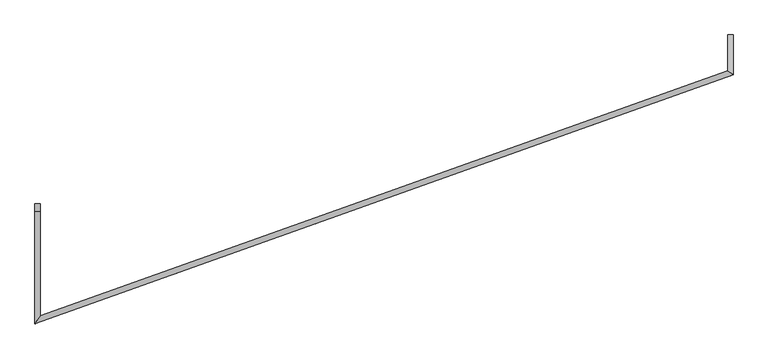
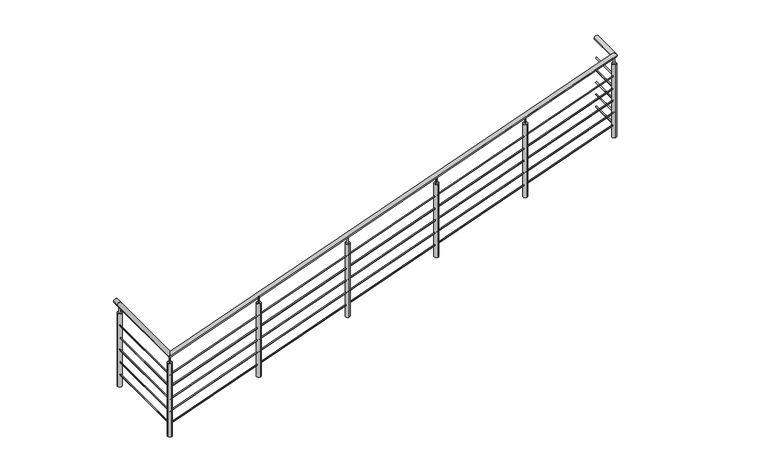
"""IFC4 building model written with IfcOpenShell, lengths in millimetres: railing geometry, Barandal general."""

import ifcopenshell
import ifcopenshell.guid

model = None  # the IFC model being written
_history = None  # IfcOwnerHistory: only IFC2X3 demands one
_inside = {}  # id of a spatial element -> (the spatial element, [elements in it])
_under = {}  # id of a project, library or spatial element -> (it, [spatial elements below it])
_declared = {}  # id of a project -> (the project, [libraries it declares])
_typed = {}  # id of a type object -> (the type object, [elements of that type])
_made_of = {}  # id of a material, layer set ... -> (it, [elements and type objects made of it])


def new_model(schema):
    """Start an empty IFC model of exactly this schema.

    Asked for "IFC4X3", IfcOpenShell would pick the latest addendum, in which some entities
    have other attributes; the version numbers below select the first issue.
    IFC2X3 requires an IfcOwnerHistory on every rooted entity: one is made here for all.
    """
    global model, _history
    if schema == "IFC4X3":
        model = ifcopenshell.file(schema_version=(4, 3, 0, 0))
    else:
        model = ifcopenshell.file(schema=schema)
    _inside.clear()
    _under.clear()
    _declared.clear()
    _typed.clear()
    _made_of.clear()
    _history = None
    if model.schema == "IFC2X3":
        org = make("IfcOrganization", Name="unknown")
        user = make(
            "IfcPersonAndOrganization",
            ThePerson=make("IfcPerson", FamilyName="unknown"),
            TheOrganization=org,
        )
        app = make(
            "IfcApplication",
            ApplicationDeveloper=org,
            Version="unknown",
            ApplicationFullName="unknown",
            ApplicationIdentifier="unknown",
        )
        _history = make(
            "IfcOwnerHistory",
            OwningUser=user,
            OwningApplication=app,
            ChangeAction="ADDED",
            CreationDate=0,
        )
    return model


def make(cls, **values):
    """One entity of the class cls with the attributes given. An attribute that is None is left unset."""
    return model.create_entity(
        cls, **{name: value for name, value in values.items() if value is not None}
    )


def rooted(cls, **values):
    """An entity with a GlobalId (a new one), such as an element, a storey or a relation."""
    return make(cls, GlobalId=ifcopenshell.guid.new(), OwnerHistory=_history, **values)


def si_unit(unit_type, name, prefix=None):
    """IfcSIUnit, for example si_unit("LENGTHUNIT", "METRE", prefix="MILLI")."""
    return make("IfcSIUnit", UnitType=unit_type, Prefix=prefix, Name=name)


def assignment(units):
    """IfcUnitAssignment: the units of a project."""
    return None if units is None else make("IfcUnitAssignment", Units=units)


def point(xyz):
    """IfcCartesianPoint."""
    return None if xyz is None else make("IfcCartesianPoint", Coordinates=xyz)


def direction(xyz):
    """IfcDirection."""
    return None if xyz is None else make("IfcDirection", DirectionRatios=xyz)


def frame(location, z_axis=None, x_axis=None):
    """IfcAxis2Placement3D, a coordinate frame: its origin and axes. An axis left out is left unset."""
    return make(
        "IfcAxis2Placement3D",
        Location=point(location),
        Axis=direction(z_axis),
        RefDirection=direction(x_axis),
    )


def frame_2d(location, x_axis=None):
    """IfcAxis2Placement2D, a coordinate frame in the plane: its origin and x axis."""
    return make(
        "IfcAxis2Placement2D", Location=point(location), RefDirection=direction(x_axis)
    )


def origin():
    """The frame at (0, 0, 0) with its axes left unset."""
    return frame((0.0, 0.0, 0.0))


def place(relative_to, where):
    """IfcLocalPlacement: puts the frame where relative to a parent placement (None: the world)."""
    return make(
        "IfcLocalPlacement", PlacementRelTo=relative_to, RelativePlacement=where
    )


def context(
    kind, dimensions, precision=None, world=None, true_north=None, identifier=None
):
    """IfcGeometricRepresentationContext, for example the 3D "Model" context."""
    return make(
        "IfcGeometricRepresentationContext",
        ContextIdentifier=identifier,
        ContextType=kind,
        CoordinateSpaceDimension=dimensions,
        Precision=precision,
        WorldCoordinateSystem=world,
        TrueNorth=true_north,
    )


def project(units=None, contexts=None):
    """IfcProject with its units and contexts."""
    return rooted(
        "IfcProject",
        Name="project",
        RepresentationContexts=contexts,
        UnitsInContext=assignment(units),
    )


def spatial(cls, under=None, at=None, **own):
    """A site, building, storey or space (cls), placed at a placement, below another one or the project."""
    s = rooted(cls, ObjectPlacement=at, **own)
    if under is not None:
        _under.setdefault(under.id(), (under, []))[1].append(s)
    return s


def circle_curve(where, radius):
    """IfcCircle in the frame where."""
    return make("IfcCircle", Position=where, Radius=radius)


def ellipse_curve(where, semi_axis1, semi_axis2):
    """IfcEllipse in the frame where."""
    return make(
        "IfcEllipse", Position=where, SemiAxis1=semi_axis1, SemiAxis2=semi_axis2
    )


def trimmed(basis, trim1, trim2, sense, master):
    """IfcTrimmedCurve: the piece of a basis curve between two trims."""
    return make(
        "IfcTrimmedCurve",
        BasisCurve=basis,
        Trim1=trim1,
        Trim2=trim2,
        SenseAgreement=sense,
        MasterRepresentation=master,
    )


def segment(curve, same_sense, transition):
    """IfcCompositeCurveSegment."""
    return make(
        "IfcCompositeCurveSegment",
        Transition=transition,
        SameSense=same_sense,
        ParentCurve=curve,
    )


def composite_curve(segments, self_intersect=None):
    """IfcCompositeCurve: segments joined end to end."""
    return make("IfcCompositeCurve", Segments=segments, SelfIntersect=self_intersect)


def outline(outer, holes=None, kind="AREA"):
    """IfcArbitraryClosedProfileDef: a profile drawn as a closed curve; with holes, ...WithVoids."""
    if holes is None:
        return make("IfcArbitraryClosedProfileDef", ProfileType=kind, OuterCurve=outer)
    return make(
        "IfcArbitraryProfileDefWithVoids",
        ProfileType=kind,
        OuterCurve=outer,
        InnerCurves=holes,
    )


def extrude(swept, where, along, depth):
    """IfcExtrudedAreaSolid: the profile swept, set in the frame where, extruded along a direction by depth."""
    return make(
        "IfcExtrudedAreaSolid",
        SweptArea=swept,
        Position=where,
        ExtrudedDirection=direction(along),
        Depth=depth,
    )


def shape(context_of_items, identifier, shape_type, items):
    """IfcShapeRepresentation: the items that make up one representation, for example the "Body"."""
    return make(
        "IfcShapeRepresentation",
        ContextOfItems=context_of_items,
        RepresentationIdentifier=identifier,
        RepresentationType=shape_type,
        Items=items,
    )


def source(mapping_origin, context_of_items, identifier, shape_type, items):
    """IfcRepresentationMap: a shape defined once, which mapped items show again and again."""
    return make(
        "IfcRepresentationMap",
        MappingOrigin=mapping_origin,
        MappedRepresentation=shape(context_of_items, identifier, shape_type, items),
    )


def transform(
    local_origin,
    x_axis=None,
    y_axis=None,
    z_axis=None,
    scale=None,
    scale2=None,
    scale3=None,
    uniform=True,
):
    """IfcCartesianTransformationOperator3D, or its non-uniform kind. x_axis, y_axis, z_axis: its Axis1, 2, 3."""
    if uniform:
        return make(
            "IfcCartesianTransformationOperator3D",
            Axis1=direction(x_axis),
            Axis2=direction(y_axis),
            LocalOrigin=point(local_origin),
            Scale=scale,
            Axis3=direction(z_axis),
        )
    return make(
        "IfcCartesianTransformationOperator3DnonUniform",
        Axis1=direction(x_axis),
        Axis2=direction(y_axis),
        LocalOrigin=point(local_origin),
        Scale=scale,
        Axis3=direction(z_axis),
        Scale2=scale2,
        Scale3=scale3,
    )


def mapped(mapping_source, mapping_target):
    """IfcMappedItem: shows the shape of a source again, moved by a transform."""
    return make(
        "IfcMappedItem", MappingSource=mapping_source, MappingTarget=mapping_target
    )


def made_of(thing, what):
    """Note that an element or type object is made of a material, layer set ...; save() writes the relation."""
    if what is not None:
        _made_of.setdefault(what.id(), (what, []))[1].append(thing)
    return thing


def element(
    cls,
    number,
    at=None,
    inside=None,
    cuts=None,
    type_object=None,
    material=None,
    context=None,
    identifier="Body",
    shape_type=None,
    held_by="IfcProductDefinitionShape",
    body=None,
    shapes=None,
    **own,
):
    """One element of the class cls, such as IfcWall. Its Tag is "e" and its number.

    at: its placement. inside: the storey or other place that contains it. cuts: it is an
    opening in that element (IfcRelVoidsElement). A single representation is given by context,
    identifier, shape_type and body (its items); several are given by shapes. held_by: the class
    of the entity that holds the representations. save() writes the other relations.
    """
    e = rooted(cls, Tag="e%d" % number, ObjectPlacement=at, **own)
    if body is not None:
        shapes = [shape(context, identifier, shape_type, body)]
    if shapes is not None:
        e.Representation = make(held_by, Representations=shapes)
    if inside is not None:
        _inside.setdefault(inside.id(), (inside, []))[1].append(e)
    if cuts is not None:
        rooted(
            "IfcRelVoidsElement", RelatingBuildingElement=cuts, RelatedOpeningElement=e
        )
    if type_object is not None:
        _typed.setdefault(type_object.id(), (type_object, []))[1].append(e)
    return made_of(e, material)


def aggregate(whole, parts):
    """IfcRelAggregates: a whole, such as a stair, and the parts it consists of."""
    return rooted("IfcRelAggregates", RelatingObject=whole, RelatedObjects=parts)


def save(model, path):
    """Write the relations noted so far, then the file.

    IfcRelAggregates (storeys below a building ...), IfcRelContainedInSpatialStructure (elements
    in a storey), IfcRelDefinesByType, IfcRelAssociatesMaterial and IfcRelDeclares: one each for
    every whole, place, type object, material and project.
    """
    for whole, parts in _under.values():
        aggregate(whole, parts)
    for where, things in _inside.values():
        rooted(
            "IfcRelContainedInSpatialStructure",
            RelatedElements=things,
            RelatingStructure=where,
        )
    for kind, things in _typed.values():
        rooted("IfcRelDefinesByType", RelatedObjects=things, RelatingType=kind)
    for what, things in _made_of.values():
        rooted("IfcRelAssociatesMaterial", RelatedObjects=things, RelatingMaterial=what)
    for by, libraries in _declared.values():
        rooted("IfcRelDeclares", RelatingContext=by, RelatedDefinitions=libraries)
    model.write(path)


def plane_surface(at):
    """IfcPlane: the flat surface through the origin of the frame at, square to its z axis."""
    return make("IfcPlane", Position=at)


def cylinder_surface(at, radius):
    """IfcCylindricalSurface: all points at the distance radius from the z axis of the frame at."""
    return make("IfcCylindricalSurface", Position=at, Radius=radius)


def advanced_brep(points, edges, surfaces, faces):
    """IfcAdvancedBrep: a solid bounded by faces that lie on surfaces and meet in shared edges.

    An edge is (start, end): straight between two places in points (the first is 0);
    or (start, end, curve); or (start, end, curve, False) where it runs against its curve.
    A face is (place in surfaces, loops), or (place, loops, False) where it looks against
    its surface's normal. A loop lists edges by number (the first is 1), with a minus sign
    where the edge is run from its end to its start. The first loop is the outer one.
    """
    corners = [point(p) for p in points]
    vertices = [make("IfcVertexPoint", VertexGeometry=c) for c in corners]
    made = []
    for start, end, *more in edges:
        made.append(
            make(
                "IfcEdgeCurve",
                EdgeStart=vertices[start],
                EdgeEnd=vertices[end],
                EdgeGeometry=more[0] if more else make("IfcPolyline", Points=[corners[start], corners[end]]),
                SameSense=more[1] if len(more) > 1 else True,
            )
        )
    hull = []
    for where, loops, *sense in faces:
        bounds = []
        for j, loop in enumerate(loops):
            ring = [make("IfcOrientedEdge", EdgeElement=made[abs(k) - 1], Orientation=k > 0) for k in loop]
            bounds.append(
                make(
                    "IfcFaceOuterBound" if j == 0 else "IfcFaceBound",
                    Bound=make("IfcEdgeLoop", EdgeList=ring),
                    Orientation=True,
                )
            )
        hull.append(make("IfcAdvancedFace", Bounds=bounds, FaceSurface=surfaces[where], SameSense=sense[0] if sense else True))
    return make("IfcAdvancedBrep", Outer=make("IfcClosedShell", CfsFaces=hull))


def railing_f92ae113(model_context):
    return source(origin(), model_context, "Body", "SolidModel", [
        advanced_brep(
        [(42883.0275078, 24829.0112971, 10000.0), (42832.2275078, 24829.0112971, 10000.0), (42883.0275078, 23850.0761645, 10000.0), (42832.2275078, 23778.0442839, 10000.0), (49344.1059119, 26152.5044571, 10000.0), (49394.9059119, 26116.6780983, 10000.0), (49344.1059119, 26491.6980314, 10000.0), (49394.9059119, 26491.6980314, 10000.0)],
        [
            (0, 1, circle_curve(frame((42857.6275078, 24829.0112971, 10000.0), z_axis=(0.0, 1.0, 0.0), x_axis=(-1.0, 0.0, 0.0)), 25.4)),
            (1, 0, circle_curve(frame((42857.6275078, 24829.0112971, 10000.0), z_axis=(0.0, 1.0, 0.0), x_axis=(-1.0, 0.0, 0.0)), 25.4)),
            (0, 2),
            (2, 3, ellipse_curve(frame((42857.6275078, 23814.0602242, 10000.0), z_axis=(-0.8172138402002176, 0.5763345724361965, 0.0), x_axis=(0.5763345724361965, 0.8172138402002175, 0.0)), 44.071623, 25.4)),
            (3, 1),
            (3, 2, ellipse_curve(frame((42857.6275078, 23814.0602242, 10000.0), z_axis=(-0.8172138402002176, 0.5763345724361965, 0.0), x_axis=(0.5763345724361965, 0.8172138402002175, 0.0)), 44.071623, 25.4)),
            (2, 4),
            (4, 5, ellipse_curve(frame((49369.5059119, 26134.5912777, 10000.0), z_axis=(-0.5763345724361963, -0.8172138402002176, 0.0), x_axis=(-0.8172138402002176, 0.5763345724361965, 0.0)), 31.0812161, 25.4)),
            (5, 3),
            (5, 4, ellipse_curve(frame((49369.5059119, 26134.5912777, 10000.0), z_axis=(-0.5763345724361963, -0.8172138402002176, 0.0), x_axis=(-0.8172138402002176, 0.5763345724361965, 0.0)), 31.0812161, 25.4)),
            (6, 7, circle_curve(frame((49369.5059119, 26491.6980314, 10000.0), z_axis=(0.0, 1.0, 0.0), x_axis=(1.0, 0.0, 0.0)), 25.4)),
            (7, 6, circle_curve(frame((49369.5059119, 26491.6980314, 10000.0), z_axis=(0.0, 1.0, 0.0), x_axis=(1.0, 0.0, 0.0)), 25.4)),
            (4, 6),
            (7, 5),
        ],
        [
            plane_surface(frame((42857.6275078, 24829.0112971, 10000.0), z_axis=(0.0, 1.0, 0.0), x_axis=(0.0, 0.0, -1.0))),
            cylinder_surface(frame((42857.6275078, 24829.0112971, 10000.0), z_axis=(0.0, 1.0, 0.0), x_axis=(-1.0, 0.0, 0.0)), 25.4),
            cylinder_surface(frame((42857.6275078, 23814.0602242, 10000.0), z_axis=(-0.941977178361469, -0.3356769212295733, 0.0), x_axis=(0.3356769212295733, -0.941977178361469, 0.0)), 25.4),
            plane_surface(frame((49369.5059119, 26491.6980314, 10000.0), z_axis=(0.0, 1.0, 0.0), x_axis=(0.0, 0.0, 1.0))),
            cylinder_surface(frame((49369.5059119, 26134.5912777, 10000.0), z_axis=(0.0, -1.0, 0.0), x_axis=(1.0, 0.0, 0.0)), 25.4),
        ],
        [
            (0, [[1, 2]]),
            (1, [[-1, 3, 4, 5]]),
            (1, [[-2, -5, 6, -3]]),
            (2, [[-4, 7, 8, 9]]),
            (2, [[-6, -9, 10, -7]]),
            (3, [[11, 12]]),
            (4, [[-8, 13, -12, 14]]),
            (4, [[-10, -14, -11, -13]]),
        ],
    ),
        advanced_brep(
        [(42863.9775078, 24829.0112971, 9750.0), (42851.2775078, 24829.0112971, 9750.0), (42863.9775078, 23823.0642093, 9750.0), (42851.2775078, 23805.0562391, 9750.0), (49363.1559119, 26139.0695726, 9750.0), (49375.8559119, 26130.1129829, 9750.0), (49363.1559119, 26491.6980314, 9750.0), (49375.8559119, 26491.6980314, 9750.0)],
        [
            (0, 1, circle_curve(frame((42857.6275078, 24829.0112971, 9750.0), z_axis=(0.0, 1.0, 0.0), x_axis=(-1.0, 0.0, 0.0)), 6.35)),
            (1, 0, circle_curve(frame((42857.6275078, 24829.0112971, 9750.0), z_axis=(0.0, 1.0, 0.0), x_axis=(-1.0, 0.0, 0.0)), 6.35)),
            (0, 2),
            (2, 3, ellipse_curve(frame((42857.6275078, 23814.0602242, 9750.0), z_axis=(-0.8172138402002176, 0.5763345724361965, 0.0), x_axis=(0.5763345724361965, 0.8172138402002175, 0.0)), 11.0179058, 6.35)),
            (3, 1),
            (3, 2, ellipse_curve(frame((42857.6275078, 23814.0602242, 9750.0), z_axis=(-0.8172138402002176, 0.5763345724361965, 0.0), x_axis=(0.5763345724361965, 0.8172138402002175, 0.0)), 11.0179058, 6.35)),
            (2, 4),
            (4, 5, ellipse_curve(frame((49369.5059119, 26134.5912777, 9750.0), z_axis=(-0.5763345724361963, -0.8172138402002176, 0.0), x_axis=(-0.8172138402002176, 0.5763345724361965, 0.0)), 7.770304, 6.35)),
            (5, 3),
            (5, 4, ellipse_curve(frame((49369.5059119, 26134.5912777, 9750.0), z_axis=(-0.5763345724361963, -0.8172138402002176, 0.0), x_axis=(-0.8172138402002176, 0.5763345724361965, 0.0)), 7.770304, 6.35)),
            (6, 7, circle_curve(frame((49369.5059119, 26491.6980314, 9750.0), z_axis=(0.0, 1.0, 0.0), x_axis=(1.0, 0.0, 0.0)), 6.35)),
            (7, 6, circle_curve(frame((49369.5059119, 26491.6980314, 9750.0), z_axis=(0.0, 1.0, 0.0), x_axis=(1.0, 0.0, 0.0)), 6.35)),
            (4, 6),
            (7, 5),
        ],
        [
            plane_surface(frame((42857.6275078, 24829.0112971, 9750.0), z_axis=(0.0, 1.0, 0.0), x_axis=(0.0, 0.0, -1.0))),
            cylinder_surface(frame((42857.6275078, 24829.0112971, 9750.0), z_axis=(0.0, 1.0, 0.0), x_axis=(-1.0, 0.0, 0.0)), 6.35),
            cylinder_surface(frame((42857.6275078, 23814.0602242, 9750.0), z_axis=(-0.941977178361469, -0.3356769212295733, 0.0), x_axis=(0.3356769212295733, -0.941977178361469, 0.0)), 6.35),
            plane_surface(frame((49369.5059119, 26491.6980314, 9750.0), z_axis=(0.0, 1.0, 0.0), x_axis=(0.0, 0.0, 1.0))),
            cylinder_surface(frame((49369.5059119, 26134.5912777, 9750.0), z_axis=(0.0, -1.0, 0.0), x_axis=(1.0, 0.0, 0.0)), 6.35),
        ],
        [
            (0, [[1, 2]]),
            (1, [[-1, 3, 4, 5]]),
            (1, [[-2, -5, 6, -3]]),
            (2, [[-4, 7, 8, 9]]),
            (2, [[-6, -9, 10, -7]]),
            (3, [[11, 12]]),
            (4, [[-8, 13, -12, 14]]),
            (4, [[-10, -14, -11, -13]]),
        ],
    ),
        advanced_brep(
        [(42863.9775078, 24829.0112971, 9600.0), (42851.2775078, 24829.0112971, 9600.0), (42863.9775078, 23823.0642093, 9600.0), (42851.2775078, 23805.0562391, 9600.0), (49363.1559119, 26139.0695726, 9600.0), (49375.8559119, 26130.1129829, 9600.0), (49363.1559119, 26491.6980314, 9600.0), (49375.8559119, 26491.6980314, 9600.0)],
        [
            (0, 1, circle_curve(frame((42857.6275078, 24829.0112971, 9600.0), z_axis=(0.0, 1.0, 0.0), x_axis=(-1.0, 0.0, 0.0)), 6.35)),
            (1, 0, circle_curve(frame((42857.6275078, 24829.0112971, 9600.0), z_axis=(0.0, 1.0, 0.0), x_axis=(-1.0, 0.0, 0.0)), 6.35)),
            (0, 2),
            (2, 3, ellipse_curve(frame((42857.6275078, 23814.0602242, 9600.0), z_axis=(-0.8172138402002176, 0.5763345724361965, 0.0), x_axis=(0.5763345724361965, 0.8172138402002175, 0.0)), 11.0179058, 6.35)),
            (3, 1),
            (3, 2, ellipse_curve(frame((42857.6275078, 23814.0602242, 9600.0), z_axis=(-0.8172138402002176, 0.5763345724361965, 0.0), x_axis=(0.5763345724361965, 0.8172138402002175, 0.0)), 11.0179058, 6.35)),
            (2, 4),
            (4, 5, ellipse_curve(frame((49369.5059119, 26134.5912777, 9600.0), z_axis=(-0.5763345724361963, -0.8172138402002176, 0.0), x_axis=(-0.8172138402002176, 0.5763345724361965, 0.0)), 7.770304, 6.35)),
            (5, 3),
            (5, 4, ellipse_curve(frame((49369.5059119, 26134.5912777, 9600.0), z_axis=(-0.5763345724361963, -0.8172138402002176, 0.0), x_axis=(-0.8172138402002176, 0.5763345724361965, 0.0)), 7.770304, 6.35)),
            (6, 7, circle_curve(frame((49369.5059119, 26491.6980314, 9600.0), z_axis=(0.0, 1.0, 0.0), x_axis=(1.0, 0.0, 0.0)), 6.35)),
            (7, 6, circle_curve(frame((49369.5059119, 26491.6980314, 9600.0), z_axis=(0.0, 1.0, 0.0), x_axis=(1.0, 0.0, 0.0)), 6.35)),
            (4, 6),
            (7, 5),
        ],
        [
            plane_surface(frame((42857.6275078, 24829.0112971, 9600.0), z_axis=(0.0, 1.0, 0.0), x_axis=(0.0, 0.0, -1.0))),
            cylinder_surface(frame((42857.6275078, 24829.0112971, 9600.0), z_axis=(0.0, 1.0, 0.0), x_axis=(-1.0, 0.0, 0.0)), 6.35),
            cylinder_surface(frame((42857.6275078, 23814.0602242, 9600.0), z_axis=(-0.941977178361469, -0.3356769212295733, 0.0), x_axis=(0.3356769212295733, -0.941977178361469, 0.0)), 6.35),
            plane_surface(frame((49369.5059119, 26491.6980314, 9600.0), z_axis=(0.0, 1.0, 0.0), x_axis=(0.0, 0.0, 1.0))),
            cylinder_surface(frame((49369.5059119, 26134.5912777, 9600.0), z_axis=(0.0, -1.0, 0.0), x_axis=(1.0, 0.0, 0.0)), 6.35),
        ],
        [
            (0, [[1, 2]]),
            (1, [[-1, 3, 4, 5]]),
            (1, [[-2, -5, 6, -3]]),
            (2, [[-4, 7, 8, 9]]),
            (2, [[-6, -9, 10, -7]]),
            (3, [[11, 12]]),
            (4, [[-8, 13, -12, 14]]),
            (4, [[-10, -14, -11, -13]]),
        ],
    ),
        advanced_brep(
        [(42863.9775078, 24829.0112971, 9450.0), (42851.2775078, 24829.0112971, 9450.0), (42863.9775078, 23823.0642093, 9450.0), (42851.2775078, 23805.0562391, 9450.0), (49363.1559119, 26139.0695726, 9450.0), (49375.8559119, 26130.1129829, 9450.0), (49363.1559119, 26491.6980314, 9450.0), (49375.8559119, 26491.6980314, 9450.0)],
        [
            (0, 1, circle_curve(frame((42857.6275078, 24829.0112971, 9450.0), z_axis=(0.0, 1.0, 0.0), x_axis=(-1.0, 0.0, 0.0)), 6.35)),
            (1, 0, circle_curve(frame((42857.6275078, 24829.0112971, 9450.0), z_axis=(0.0, 1.0, 0.0), x_axis=(-1.0, 0.0, 0.0)), 6.35)),
            (0, 2),
            (2, 3, ellipse_curve(frame((42857.6275078, 23814.0602242, 9450.0), z_axis=(-0.8172138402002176, 0.5763345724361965, 0.0), x_axis=(0.5763345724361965, 0.8172138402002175, 0.0)), 11.0179058, 6.35)),
            (3, 1),
            (3, 2, ellipse_curve(frame((42857.6275078, 23814.0602242, 9450.0), z_axis=(-0.8172138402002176, 0.5763345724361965, 0.0), x_axis=(0.5763345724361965, 0.8172138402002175, 0.0)), 11.0179058, 6.35)),
            (2, 4),
            (4, 5, ellipse_curve(frame((49369.5059119, 26134.5912777, 9450.0), z_axis=(-0.5763345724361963, -0.8172138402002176, 0.0), x_axis=(-0.8172138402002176, 0.5763345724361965, 0.0)), 7.770304, 6.35)),
            (5, 3),
            (5, 4, ellipse_curve(frame((49369.5059119, 26134.5912777, 9450.0), z_axis=(-0.5763345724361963, -0.8172138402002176, 0.0), x_axis=(-0.8172138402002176, 0.5763345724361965, 0.0)), 7.770304, 6.35)),
            (6, 7, circle_curve(frame((49369.5059119, 26491.6980314, 9450.0), z_axis=(0.0, 1.0, 0.0), x_axis=(1.0, 0.0, 0.0)), 6.35)),
            (7, 6, circle_curve(frame((49369.5059119, 26491.6980314, 9450.0), z_axis=(0.0, 1.0, 0.0), x_axis=(1.0, 0.0, 0.0)), 6.35)),
            (4, 6),
            (7, 5),
        ],
        [
            plane_surface(frame((42857.6275078, 24829.0112971, 9450.0), z_axis=(0.0, 1.0, 0.0), x_axis=(0.0, 0.0, -1.0))),
            cylinder_surface(frame((42857.6275078, 24829.0112971, 9450.0), z_axis=(0.0, 1.0, 0.0), x_axis=(-1.0, 0.0, 0.0)), 6.35),
            cylinder_surface(frame((42857.6275078, 23814.0602242, 9450.0), z_axis=(-0.941977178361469, -0.3356769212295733, 0.0), x_axis=(0.3356769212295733, -0.941977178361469, 0.0)), 6.35),
            plane_surface(frame((49369.5059119, 26491.6980314, 9450.0), z_axis=(0.0, 1.0, 0.0), x_axis=(0.0, 0.0, 1.0))),
            cylinder_surface(frame((49369.5059119, 26134.5912777, 9450.0), z_axis=(0.0, -1.0, 0.0), x_axis=(1.0, 0.0, 0.0)), 6.35),
        ],
        [
            (0, [[1, 2]]),
            (1, [[-1, 3, 4, 5]]),
            (1, [[-2, -5, 6, -3]]),
            (2, [[-4, 7, 8, 9]]),
            (2, [[-6, -9, 10, -7]]),
            (3, [[11, 12]]),
            (4, [[-8, 13, -12, 14]]),
            (4, [[-10, -14, -11, -13]]),
        ],
    ),
        advanced_brep(
        [(42863.9775078, 24829.0112971, 9300.0), (42851.2775078, 24829.0112971, 9300.0), (42863.9775078, 23823.0642093, 9300.0), (42851.2775078, 23805.0562391, 9300.0), (49363.1559119, 26139.0695726, 9300.0), (49375.8559119, 26130.1129829, 9300.0), (49363.1559119, 26491.6980314, 9300.0), (49375.8559119, 26491.6980314, 9300.0)],
        [
            (0, 1, circle_curve(frame((42857.6275078, 24829.0112971, 9300.0), z_axis=(0.0, 1.0, 0.0), x_axis=(-1.0, 0.0, 0.0)), 6.35)),
            (1, 0, circle_curve(frame((42857.6275078, 24829.0112971, 9300.0), z_axis=(0.0, 1.0, 0.0), x_axis=(-1.0, 0.0, 0.0)), 6.35)),
            (0, 2),
            (2, 3, ellipse_curve(frame((42857.6275078, 23814.0602242, 9300.0), z_axis=(-0.8172138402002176, 0.5763345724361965, 0.0), x_axis=(0.5763345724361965, 0.8172138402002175, 0.0)), 11.0179058, 6.35)),
            (3, 1),
            (3, 2, ellipse_curve(frame((42857.6275078, 23814.0602242, 9300.0), z_axis=(-0.8172138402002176, 0.5763345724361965, 0.0), x_axis=(0.5763345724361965, 0.8172138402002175, 0.0)), 11.0179058, 6.35)),
            (2, 4),
            (4, 5, ellipse_curve(frame((49369.5059119, 26134.5912777, 9300.0), z_axis=(-0.5763345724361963, -0.8172138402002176, 0.0), x_axis=(-0.8172138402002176, 0.5763345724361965, 0.0)), 7.770304, 6.35)),
            (5, 3),
            (5, 4, ellipse_curve(frame((49369.5059119, 26134.5912777, 9300.0), z_axis=(-0.5763345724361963, -0.8172138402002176, 0.0), x_axis=(-0.8172138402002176, 0.5763345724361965, 0.0)), 7.770304, 6.35)),
            (6, 7, circle_curve(frame((49369.5059119, 26491.6980314, 9300.0), z_axis=(0.0, 1.0, 0.0), x_axis=(1.0, 0.0, 0.0)), 6.35)),
            (7, 6, circle_curve(frame((49369.5059119, 26491.6980314, 9300.0), z_axis=(0.0, 1.0, 0.0), x_axis=(1.0, 0.0, 0.0)), 6.35)),
            (4, 6),
            (7, 5),
        ],
        [
            plane_surface(frame((42857.6275078, 24829.0112971, 9300.0), z_axis=(0.0, 1.0, 0.0), x_axis=(0.0, 0.0, -1.0))),
            cylinder_surface(frame((42857.6275078, 24829.0112971, 9300.0), z_axis=(0.0, 1.0, 0.0), x_axis=(-1.0, 0.0, 0.0)), 6.35),
            cylinder_surface(frame((42857.6275078, 23814.0602242, 9300.0), z_axis=(-0.941977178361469, -0.3356769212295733, 0.0), x_axis=(0.3356769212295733, -0.941977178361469, 0.0)), 6.35),
            plane_surface(frame((49369.5059119, 26491.6980314, 9300.0), z_axis=(0.0, 1.0, 0.0), x_axis=(0.0, 0.0, 1.0))),
            cylinder_surface(frame((49369.5059119, 26134.5912777, 9300.0), z_axis=(0.0, -1.0, 0.0), x_axis=(1.0, 0.0, 0.0)), 6.35),
        ],
        [
            (0, [[1, 2]]),
            (1, [[-1, 3, 4, 5]]),
            (1, [[-2, -5, 6, -3]]),
            (2, [[-4, 7, 8, 9]]),
            (2, [[-6, -9, 10, -7]]),
            (3, [[11, 12]]),
            (4, [[-8, 13, -12, 14]]),
            (4, [[-10, -14, -11, -13]]),
        ],
    ),
        advanced_brep(
        [(42863.9775078, 24829.0112971, 9150.0), (42851.2775078, 24829.0112971, 9150.0), (42863.9775078, 23823.0642093, 9150.0), (42851.2775078, 23805.0562391, 9150.0), (49363.1559119, 26139.0695726, 9150.0), (49375.8559119, 26130.1129829, 9150.0), (49363.1559119, 26491.6980314, 9150.0), (49375.8559119, 26491.6980314, 9150.0)],
        [
            (0, 1, circle_curve(frame((42857.6275078, 24829.0112971, 9150.0), z_axis=(0.0, 1.0, 0.0), x_axis=(-1.0, 0.0, 0.0)), 6.35)),
            (1, 0, circle_curve(frame((42857.6275078, 24829.0112971, 9150.0), z_axis=(0.0, 1.0, 0.0), x_axis=(-1.0, 0.0, 0.0)), 6.35)),
            (0, 2),
            (2, 3, ellipse_curve(frame((42857.6275078, 23814.0602242, 9150.0), z_axis=(-0.8172138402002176, 0.5763345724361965, 0.0), x_axis=(0.5763345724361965, 0.8172138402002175, 0.0)), 11.0179058, 6.35)),
            (3, 1),
            (3, 2, ellipse_curve(frame((42857.6275078, 23814.0602242, 9150.0), z_axis=(-0.8172138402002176, 0.5763345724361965, 0.0), x_axis=(0.5763345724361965, 0.8172138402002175, 0.0)), 11.0179058, 6.35)),
            (2, 4),
            (4, 5, ellipse_curve(frame((49369.5059119, 26134.5912777, 9150.0), z_axis=(-0.5763345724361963, -0.8172138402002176, 0.0), x_axis=(-0.8172138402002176, 0.5763345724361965, 0.0)), 7.770304, 6.35)),
            (5, 3),
            (5, 4, ellipse_curve(frame((49369.5059119, 26134.5912777, 9150.0), z_axis=(-0.5763345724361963, -0.8172138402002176, 0.0), x_axis=(-0.8172138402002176, 0.5763345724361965, 0.0)), 7.770304, 6.35)),
            (6, 7, circle_curve(frame((49369.5059119, 26491.6980314, 9150.0), z_axis=(0.0, 1.0, 0.0), x_axis=(1.0, 0.0, 0.0)), 6.35)),
            (7, 6, circle_curve(frame((49369.5059119, 26491.6980314, 9150.0), z_axis=(0.0, 1.0, 0.0), x_axis=(1.0, 0.0, 0.0)), 6.35)),
            (4, 6),
            (7, 5),
        ],
        [
            plane_surface(frame((42857.6275078, 24829.0112971, 9150.0), z_axis=(0.0, 1.0, 0.0), x_axis=(0.0, 0.0, -1.0))),
            cylinder_surface(frame((42857.6275078, 24829.0112971, 9150.0), z_axis=(0.0, 1.0, 0.0), x_axis=(-1.0, 0.0, 0.0)), 6.35),
            cylinder_surface(frame((42857.6275078, 23814.0602242, 9150.0), z_axis=(-0.941977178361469, -0.3356769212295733, 0.0), x_axis=(0.3356769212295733, -0.941977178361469, 0.0)), 6.35),
            plane_surface(frame((49369.5059119, 26491.6980314, 9150.0), z_axis=(0.0, 1.0, 0.0), x_axis=(0.0, 0.0, 1.0))),
            cylinder_surface(frame((49369.5059119, 26134.5912777, 9150.0), z_axis=(0.0, -1.0, 0.0), x_axis=(1.0, 0.0, 0.0)), 6.35),
        ],
        [
            (0, [[1, 2]]),
            (1, [[-1, 3, 4, 5]]),
            (1, [[-2, -5, 6, -3]]),
            (2, [[-4, 7, 8, 9]]),
            (2, [[-6, -9, 10, -7]]),
            (3, [[11, 12]]),
            (4, [[-8, 13, -12, 14]]),
            (4, [[-10, -14, -11, -13]]),
        ],
    ),
        extrude(outline(composite_curve([segment(trimmed(circle_curve(frame_2d((49369.5059119, 26134.5912777)), 6.35), [point((49371.6374604, 26128.6097226))], [point((49367.3743635, 26140.5728328))], False, "CARTESIAN"), True, "CONTINUOUS"), segment(trimmed(circle_curve(frame_2d((49369.5059119, 26134.5912777)), 6.35), [point((49367.3743635, 26140.5728328))], [point((49371.6374604, 26128.6097226))], False, "CARTESIAN"), True, "CONTINUOUS")], self_intersect=False)), frame((0.0, 0.0, 9899.6), z_axis=(0.0, 0.0, 1.0), x_axis=(1.0, 0.0, 0.0)), (0.0, 0.0, 1.0), 75.0),
        extrude(outline(composite_curve([segment(trimmed(circle_curve(frame_2d((49369.5059119, 26134.5912777)), 25.4), [point((49378.0321057, 26110.6650574))], [point((49360.9797181, 26158.517498))], False, "CARTESIAN"), True, "CONTINUOUS"), segment(trimmed(circle_curve(frame_2d((49369.5059119, 26134.5912777)), 25.4), [point((49360.9797181, 26158.517498))], [point((49378.0321057, 26110.6650574))], False, "CARTESIAN"), True, "CONTINUOUS")], self_intersect=False)), frame((0.0, 0.0, 9000.0), z_axis=(0.0, 0.0, 1.0), x_axis=(1.0, 0.0, 0.0)), (0.0, 0.0, 1.0), 899.6),
        extrude(outline(composite_curve([segment(trimmed(circle_curve(frame_2d((48067.1302311, 25670.485067)), 6.35), [point((48069.2617796, 25664.5035119))], [point((48064.9986827, 25676.4666221))], False, "CARTESIAN"), True, "CONTINUOUS"), segment(trimmed(circle_curve(frame_2d((48067.1302311, 25670.485067)), 6.35), [point((48064.9986827, 25676.4666221))], [point((48069.2617796, 25664.5035119))], False, "CARTESIAN"), True, "CONTINUOUS")], self_intersect=False)), frame((0.0, 0.0, 9899.6), z_axis=(0.0, 0.0, 1.0), x_axis=(1.0, 0.0, 0.0)), (0.0, 0.0, 1.0), 75.0),
        extrude(outline(composite_curve([segment(trimmed(circle_curve(frame_2d((48067.1302311, 25670.485067)), 25.4), [point((48075.6564249, 25646.5588467))], [point((48058.6040373, 25694.4112873))], False, "CARTESIAN"), True, "CONTINUOUS"), segment(trimmed(circle_curve(frame_2d((48067.1302311, 25670.485067)), 25.4), [point((48058.6040373, 25694.4112873))], [point((48075.6564249, 25646.5588467))], False, "CARTESIAN"), True, "CONTINUOUS")], self_intersect=False)), frame((0.0, 0.0, 9000.0), z_axis=(0.0, 0.0, 1.0), x_axis=(1.0, 0.0, 0.0)), (0.0, 0.0, 1.0), 899.6),
        extrude(outline(composite_curve([segment(trimmed(circle_curve(frame_2d((46764.7545503, 25206.3788563)), 6.35), [point((46766.8860987, 25200.3973012))], [point((46762.6230018, 25212.3604114))], False, "CARTESIAN"), True, "CONTINUOUS"), segment(trimmed(circle_curve(frame_2d((46764.7545503, 25206.3788563)), 6.35), [point((46762.6230018, 25212.3604114))], [point((46766.8860987, 25200.3973012))], False, "CARTESIAN"), True, "CONTINUOUS")], self_intersect=False)), frame((0.0, 0.0, 9899.6), z_axis=(0.0, 0.0, 1.0), x_axis=(1.0, 0.0, 0.0)), (0.0, 0.0, 1.0), 75.0),
        extrude(outline(composite_curve([segment(trimmed(circle_curve(frame_2d((46764.7545503, 25206.3788563)), 25.4), [point((46773.2807441, 25182.452636))], [point((46756.2283565, 25230.3050766))], False, "CARTESIAN"), True, "CONTINUOUS"), segment(trimmed(circle_curve(frame_2d((46764.7545503, 25206.3788563)), 25.4), [point((46756.2283565, 25230.3050766))], [point((46773.2807441, 25182.452636))], False, "CARTESIAN"), True, "CONTINUOUS")], self_intersect=False)), frame((0.0, 0.0, 9000.0), z_axis=(0.0, 0.0, 1.0), x_axis=(1.0, 0.0, 0.0)), (0.0, 0.0, 1.0), 899.6),
        extrude(outline(composite_curve([segment(trimmed(circle_curve(frame_2d((45462.3788695, 24742.2726456)), 6.35), [point((45464.5104179, 24736.2910905))], [point((45460.247321, 24748.2542007))], False, "CARTESIAN"), True, "CONTINUOUS"), segment(trimmed(circle_curve(frame_2d((45462.3788695, 24742.2726456)), 6.35), [point((45460.247321, 24748.2542007))], [point((45464.5104179, 24736.2910905))], False, "CARTESIAN"), True, "CONTINUOUS")], self_intersect=False)), frame((0.0, 0.0, 9899.6), z_axis=(0.0, 0.0, 1.0), x_axis=(1.0, 0.0, 0.0)), (0.0, 0.0, 1.0), 75.0),
        extrude(outline(composite_curve([segment(trimmed(circle_curve(frame_2d((45462.3788695, 24742.2726456)), 25.4), [point((45470.9050633, 24718.3464253))], [point((45453.8526757, 24766.1988659))], False, "CARTESIAN"), True, "CONTINUOUS"), segment(trimmed(circle_curve(frame_2d((45462.3788695, 24742.2726456)), 25.4), [point((45453.8526757, 24766.1988659))], [point((45470.9050633, 24718.3464253))], False, "CARTESIAN"), True, "CONTINUOUS")], self_intersect=False)), frame((0.0, 0.0, 9000.0), z_axis=(0.0, 0.0, 1.0), x_axis=(1.0, 0.0, 0.0)), (0.0, 0.0, 1.0), 899.6),
        extrude(outline(composite_curve([segment(trimmed(circle_curve(frame_2d((44160.0031887, 24278.1664349)), 6.35), [point((44162.1347371, 24272.1848798))], [point((44157.8716402, 24284.14799))], False, "CARTESIAN"), True, "CONTINUOUS"), segment(trimmed(circle_curve(frame_2d((44160.0031887, 24278.1664349)), 6.35), [point((44157.8716402, 24284.14799))], [point((44162.1347371, 24272.1848798))], False, "CARTESIAN"), True, "CONTINUOUS")], self_intersect=False)), frame((0.0, 0.0, 9899.6), z_axis=(0.0, 0.0, 1.0), x_axis=(1.0, 0.0, 0.0)), (0.0, 0.0, 1.0), 75.0),
        extrude(outline(composite_curve([segment(trimmed(circle_curve(frame_2d((44160.0031887, 24278.1664349)), 25.4), [point((44168.5293825, 24254.2402146))], [point((44151.4769949, 24302.0926552))], False, "CARTESIAN"), True, "CONTINUOUS"), segment(trimmed(circle_curve(frame_2d((44160.0031887, 24278.1664349)), 25.4), [point((44151.4769949, 24302.0926552))], [point((44168.5293825, 24254.2402146))], False, "CARTESIAN"), True, "CONTINUOUS")], self_intersect=False)), frame((0.0, 0.0, 9000.0), z_axis=(0.0, 0.0, 1.0), x_axis=(1.0, 0.0, 0.0)), (0.0, 0.0, 1.0), 899.6),
        extrude(outline(composite_curve([segment(trimmed(circle_curve(frame_2d((42857.6275078, 23814.0602242)), 6.35), [point((42859.7590563, 23808.0786691))], [point((42855.4959594, 23820.0417793))], False, "CARTESIAN"), True, "CONTINUOUS"), segment(trimmed(circle_curve(frame_2d((42857.6275078, 23814.0602242)), 6.35), [point((42855.4959594, 23820.0417793))], [point((42859.7590563, 23808.0786691))], False, "CARTESIAN"), True, "CONTINUOUS")], self_intersect=False)), frame((0.0, 0.0, 9899.6), z_axis=(0.0, 0.0, 1.0), x_axis=(1.0, 0.0, 0.0)), (0.0, 0.0, 1.0), 75.0),
        extrude(outline(composite_curve([segment(trimmed(circle_curve(frame_2d((42857.6275078, 23814.0602242)), 25.4), [point((42866.1537016, 23790.1340039))], [point((42849.101314, 23837.9864445))], False, "CARTESIAN"), True, "CONTINUOUS"), segment(trimmed(circle_curve(frame_2d((42857.6275078, 23814.0602242)), 25.4), [point((42849.101314, 23837.9864445))], [point((42866.1537016, 23790.1340039))], False, "CARTESIAN"), True, "CONTINUOUS")], self_intersect=False)), frame((0.0, 0.0, 9000.0), z_axis=(0.0, 0.0, 1.0), x_axis=(1.0, 0.0, 0.0)), (0.0, 0.0, 1.0), 899.6),
        extrude(outline(composite_curve([segment(trimmed(circle_curve(frame_2d((42857.6275078, 23814.0602242)), 6.35), [point((42851.2775078, 23814.0602242))], [point((42863.9775078, 23814.0602242))], False, "CARTESIAN"), True, "CONTINUOUS"), segment(trimmed(circle_curve(frame_2d((42857.6275078, 23814.0602242)), 6.35), [point((42863.9775078, 23814.0602242))], [point((42851.2775078, 23814.0602242))], False, "CARTESIAN"), True, "CONTINUOUS")], self_intersect=False)), frame((0.0, 0.0, 9899.6), z_axis=(0.0, 0.0, 1.0), x_axis=(1.0, 0.0, 0.0)), (0.0, 0.0, 1.0), 75.0),
        extrude(outline(composite_curve([segment(trimmed(circle_curve(frame_2d((42857.6275078, 23814.0602242)), 25.4), [point((42832.2275078, 23814.0602242))], [point((42883.0275078, 23814.0602242))], False, "CARTESIAN"), True, "CONTINUOUS"), segment(trimmed(circle_curve(frame_2d((42857.6275078, 23814.0602242)), 25.4), [point((42883.0275078, 23814.0602242))], [point((42832.2275078, 23814.0602242))], False, "CARTESIAN"), True, "CONTINUOUS")], self_intersect=False)), frame((0.0, 0.0, 9000.0), z_axis=(0.0, 0.0, 1.0), x_axis=(1.0, 0.0, 0.0)), (0.0, 0.0, 1.0), 899.6),
        extrude(outline(composite_curve([segment(trimmed(circle_curve(frame_2d((10000.0, 42857.6275078)), 25.4), [point((10000.0, 42832.2275078))], [point((10000.0, 42883.0275078))], False, "CARTESIAN"), True, "CONTINUOUS"), segment(trimmed(circle_curve(frame_2d((10000.0, 42857.6275078)), 25.4), [point((10000.0, 42883.0275078))], [point((10000.0, 42832.2275078))], False, "CARTESIAN"), True, "CONTINUOUS")], self_intersect=False)), frame((0.0, 24829.0112971, 0.0), z_axis=(0.0, 1.0, 0.0), x_axis=(0.0, 0.0, 1.0)), (0.0, 0.0, 1.0), 75.0),
        extrude(outline(composite_curve([segment(trimmed(circle_curve(frame_2d((42857.6275078, 24829.0112971)), 6.35), [point((42851.2775078, 24829.0112971))], [point((42863.9775078, 24829.0112971))], False, "CARTESIAN"), True, "CONTINUOUS"), segment(trimmed(circle_curve(frame_2d((42857.6275078, 24829.0112971)), 6.35), [point((42863.9775078, 24829.0112971))], [point((42851.2775078, 24829.0112971))], False, "CARTESIAN"), True, "CONTINUOUS")], self_intersect=False)), frame((0.0, 0.0, 9899.6), z_axis=(0.0, 0.0, 1.0), x_axis=(1.0, 0.0, 0.0)), (0.0, 0.0, 1.0), 75.0),
        extrude(outline(composite_curve([segment(trimmed(circle_curve(frame_2d((42857.6275078, 24829.0112971)), 25.4), [point((42832.2275078, 24829.0112971))], [point((42883.0275078, 24829.0112971))], False, "CARTESIAN"), True, "CONTINUOUS"), segment(trimmed(circle_curve(frame_2d((42857.6275078, 24829.0112971)), 25.4), [point((42883.0275078, 24829.0112971))], [point((42832.2275078, 24829.0112971))], False, "CARTESIAN"), True, "CONTINUOUS")], self_intersect=False)), frame((0.0, 0.0, 9000.0), z_axis=(0.0, 0.0, 1.0), x_axis=(1.0, 0.0, 0.0)), (0.0, 0.0, 1.0), 899.6),
    ])


if __name__ == "__main__":
    model = new_model("IFC4")
    model_context = context("Model", 3, world=origin())
    ifc_project = project(units=[si_unit("LENGTHUNIT", "METRE", prefix="MILLI")], contexts=[model_context])
    site = spatial("IfcSite", under=ifc_project)
    building = spatial("IfcBuilding", under=site)
    placement = place(None, origin())
    railing_shape = railing_f92ae113(model_context)
    element("IfcRailing", 1, ObjectType="Barandal general", at=placement, inside=building, context=model_context, shape_type="MappedRepresentation", body=[
        mapped(railing_shape, transform((0.0, 0.0, 0.0), x_axis=(1.0, 0.0, 0.0), y_axis=(0.0, 1.0, 0.0), z_axis=(0.0, 0.0, 1.0))),
    ])
    save(model, "model.ifc")
